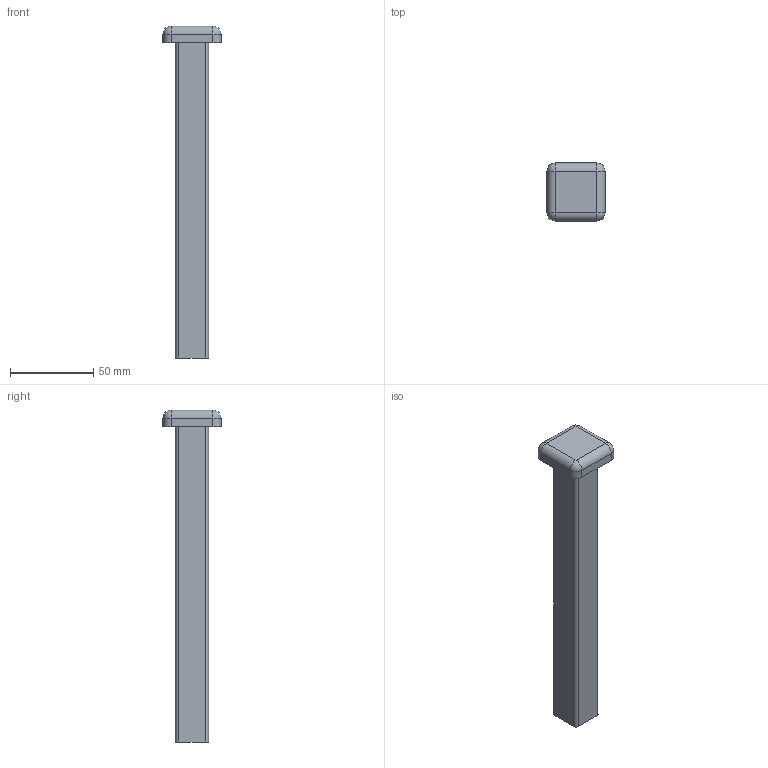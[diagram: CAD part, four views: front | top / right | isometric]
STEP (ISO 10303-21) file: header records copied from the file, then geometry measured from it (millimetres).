
FILE_DESCRIPTION (( 'STEP AP203' ), '1' );
FILE_NAME ('z.STEP', '2020-03-04T09:23:16', ( '' ), ( '' ), 'SwSTEP 2.0', 'SolidWorks 2018', '' );
FILE_SCHEMA (( 'CONFIG_CONTROL_DESIGN' ));
Length unit declared in the file: millimetre
Products named in the file (1): z
Bounding box: 35 x 35 x 200 mm (x, y, z)
Volume: 86715.6 mm3; surface area: 17975.7 mm2
Topology: 1 solids, 1 shells, 27 faces, 64 edges, 36 vertices
Faces by surface type: cylinder 12, plane 11, sphere 4
Entity records: 819 total; most frequent: DIRECTION 140, CARTESIAN_POINT 124, ORIENTED_EDGE 120, EDGE_CURVE 60, AXIS2_PLACEMENT_3D 52, LINE 36, VECTOR 36, VERTEX_POINT 36
